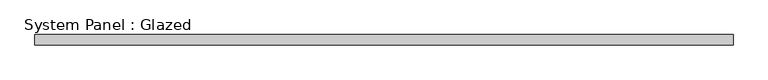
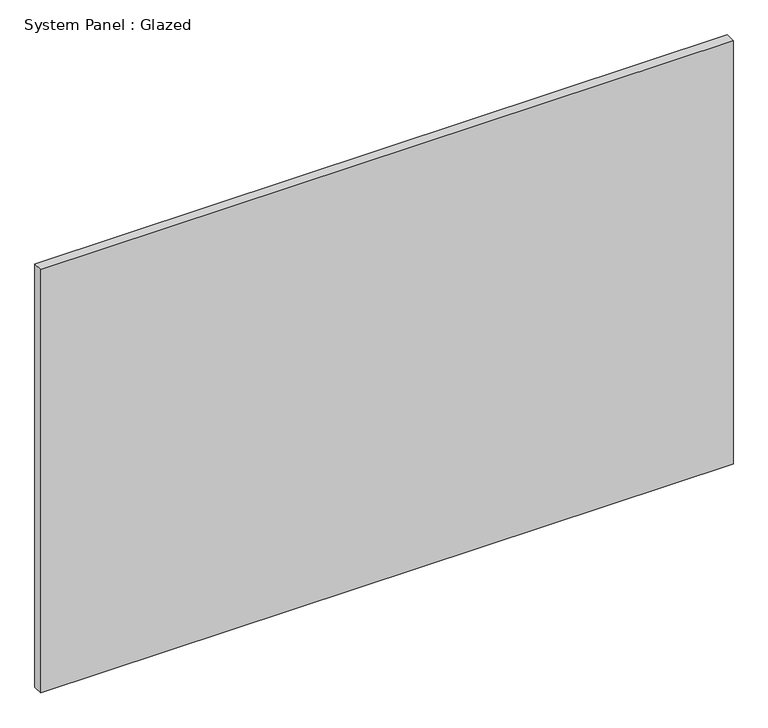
"""IFC4 building model written with IfcOpenShell, lengths in millimetres: plate geometry, System Panel : Glazed."""

from ifc_helpers import new_model, si_unit, origin, origin_with_axes, place, context, project, spatial, polyline, outline, extrude, source, transform, mapped, element, save


def system_panel_glazed_616f128d(model_context):
    return source(origin(), model_context, "Body", "SweptSolid", [
        extrude(outline(polyline([(686.5, -40.0), (-686.5, -40.0), (-686.5, -20.0), (686.5, -20.0), (686.5, -40.0)])), origin_with_axes(), (0.0, 0.0, 1.0), 887.5),
    ])


if __name__ == "__main__":
    model = new_model("IFC4")
    model_context = context("Model", 3, world=origin())
    ifc_project = project(units=[si_unit("LENGTHUNIT", "METRE", prefix="MILLI")], contexts=[model_context])
    site = spatial("IfcSite", under=ifc_project)
    building = spatial("IfcBuilding", under=site)
    placement = place(None, origin())
    system_panel_glazed_shape = system_panel_glazed_616f128d(model_context)
    element("IfcPlate", 1, ObjectType="System Panel : Glazed", at=placement, inside=building, context=model_context, shape_type="MappedRepresentation", body=[
        mapped(system_panel_glazed_shape, transform((0.0, 0.0, 0.0), x_axis=(1.0, 0.0, 0.0), y_axis=(0.0, 1.0, 0.0), z_axis=(0.0, 0.0, 1.0))),
    ])
    save(model, "model.ifc")
